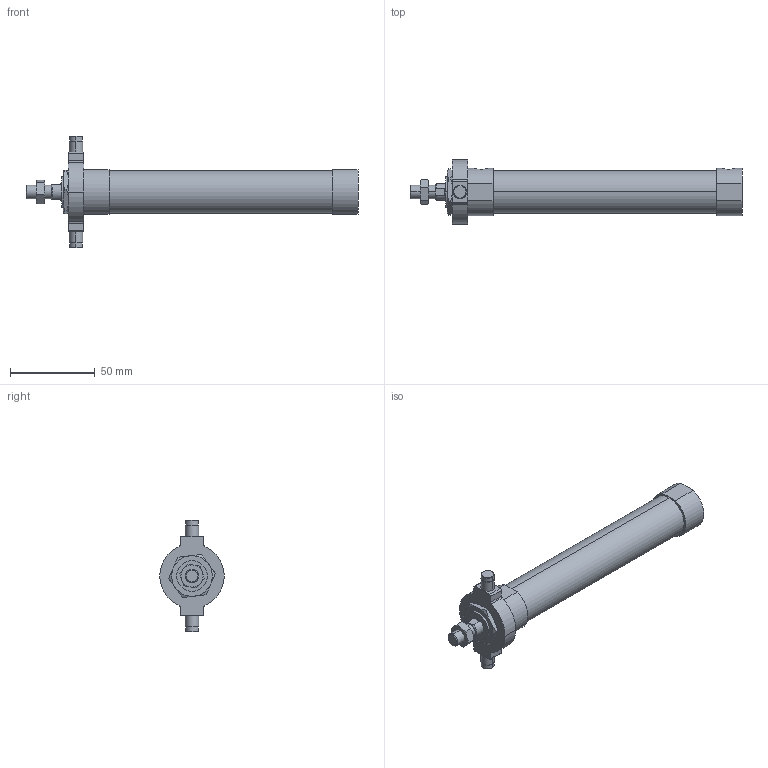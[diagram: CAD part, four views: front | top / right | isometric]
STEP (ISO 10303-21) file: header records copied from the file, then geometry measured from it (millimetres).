
FILE_DESCRIPTION (( 'STEP AP203' ), '1' );
FILE_NAME ('JGND2-20-100-T.STEP', '2016-08-04T02:31:15', ( '' ), ( '' ), 'SwSTEP 2.0', 'SolidWorks 2014', '' );
FILE_SCHEMA (( 'CONFIG_CONTROL_DESIGN' ));
Length unit declared in the file: millimetre
Products named in the file (5): J#2-20-T; JGND2-20-100-T; J#2-20-100(P)
Assembly tree (4 placements, depth 2):
  JGND2-20-100-T
    J#2-20-100(P)
    (unnamed)
    (unnamed)
    J#2-20-T
Bounding box: 196 x 38 x 66 mm (x, y, z)
Volume: 97074 mm3; surface area: 22127.8 mm2
Topology: 4 solids, 4 shells, 123 faces, 275 edges, 170 vertices
Faces by surface type: plane 44, cylinder 43, torus 24, cone 12
Entity records: 4286 total; most frequent: CARTESIAN_POINT 1031, DIRECTION 597, ORIENTED_EDGE 550, EDGE_CURVE 275, AXIS2_PLACEMENT_3D 248, VERTEX_POINT 170, EDGE_LOOP 139, FACE_OUTER_BOUND 123
